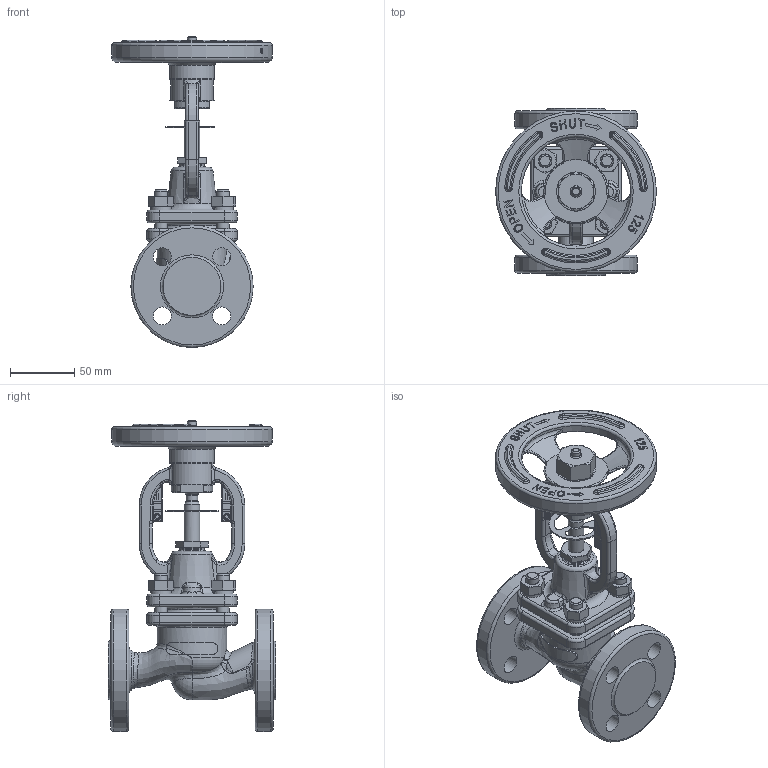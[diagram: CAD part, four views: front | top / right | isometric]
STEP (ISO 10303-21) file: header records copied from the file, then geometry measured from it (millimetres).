
FILE_DESCRIPTION(/* description */ (''),/* implementation_level */ '2;1');
FILE_NAME(/* name */ 'sest_zv2x6E_dn15.stp',/* time_stamp */ '2014-09-30T06:26:29+02:00',/* author */ (''),/* organization */ (''),/* preprocessor_version */ 'ST-DEVELOPER v15',/* originating_system */ 'SIEMENS PLM Software NX 8.5',/* authorisation */ '');
FILE_SCHEMA (('AP203_CONFIGURATION_CONTROLLED_3D_DESIGN_OF_MECHANICAL_PARTS_AND_ASSEMBLIES_MIM_LF { 1 0 10303 403 2 1 2}'));
Length unit declared in the file: millimetre
Products named in the file (1): adam0F487721p57y
Bounding box: 125 x 130 x 241.7 mm (x, y, z)
Volume: 582335.6 mm3; surface area: 131226 mm2
Topology: 1 solids, 1 shells, 886 faces, 2214 edges, 1339 vertices
Faces by surface type: plane 322, cylinder 169, bspline 144, torus 126, cone 98, extrusion 22, sphere 5
Full cylindrical faces by diameter (mm): 3 x4, 4 x1, 5 x4, 7 x1, 9 x2, 10 x12, 12 x3, 14 x8, 19.7 x1, 22 x1, 24 x1, 25 x1, 30 x1, 30.2 x1, 35 x3, 48 x1, 54 x1, 85 x1, 88 x1, 95 x2, 107 x1, 122 x1, 125 x1
Entity records: 37179 total; most frequent: CARTESIAN_POINT 18135, ORIENTED_EDGE 4064, DIRECTION 3595, EDGE_CURVE 2032, AXIS2_PLACEMENT_3D 1496, VERTEX_POINT 1287, EDGE_LOOP 1093, ADVANCED_FACE 886
